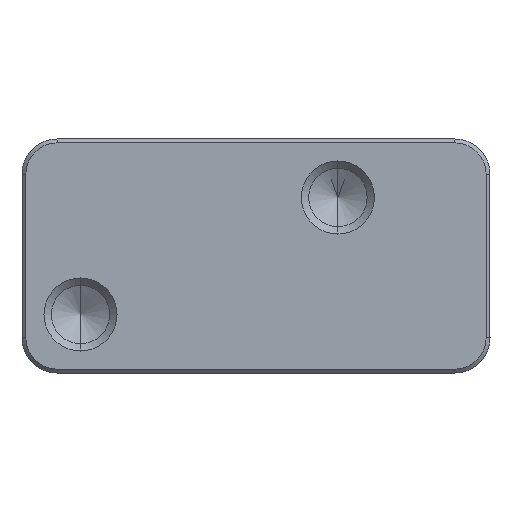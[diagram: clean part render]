
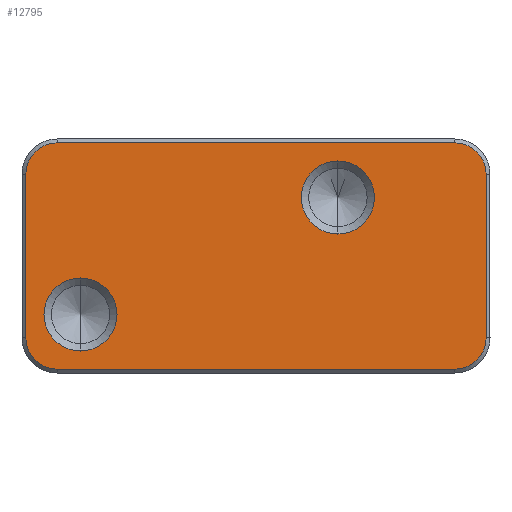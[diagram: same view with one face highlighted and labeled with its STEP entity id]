
A CAD part, front view. The second image highlights one B-rep face of the part: STEP entity #12795.
In plain terms, the highlighted planar face has unit normal (0, -1, 0).
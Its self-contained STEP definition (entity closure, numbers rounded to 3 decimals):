
#258 = CARTESIAN_POINT ( 'NONE',  ( 9.833, 0., 3.498 ) ) ;
#649 = LINE ( 'NONE', #12992, #5948 ) ;
#668 = EDGE_LOOP ( 'NONE', ( #6611, #4352 ) ) ;
#702 = EDGE_LOOP ( 'NONE', ( #12082, #4082 ) ) ;
#799 = CARTESIAN_POINT ( 'NONE',  ( 3.5, 0., 2.497 ) ) ;
#828 = CARTESIAN_POINT ( 'NONE',  ( -9.833, 0., 3.498 ) ) ;
#839 = ORIENTED_EDGE ( 'NONE', *, *, #2306, .F. ) ;
#1074 = AXIS2_PLACEMENT_3D ( 'NONE', #1117, #6933, #3401 ) ;
#1117 = CARTESIAN_POINT ( 'NONE',  ( -10., 0., -5.003 ) ) ;
#1225 = EDGE_CURVE ( 'NONE', #5557, #7521, #12453, .T. ) ;
#1322 = CARTESIAN_POINT ( 'NONE',  ( -8.5, 0., 4.831 ) ) ;
#1327 = FACE_OUTER_BOUND ( 'NONE', #12153, .T. ) ;
#1508 = CARTESIAN_POINT ( 'NONE',  ( 8.5, 0., -3.503 ) ) ;
#1725 = ORIENTED_EDGE ( 'NONE', *, *, #10922, .T. ) ;
#1761 = DIRECTION ( 'NONE',  ( 0., 1., 0. ) ) ;
#1983 = CARTESIAN_POINT ( 'NONE',  ( -9.833, 0., -3.503 ) ) ;
#2174 = DIRECTION ( 'NONE',  ( 0., 0., 1. ) ) ;
#2306 = EDGE_CURVE ( 'NONE', #14112, #10161, #12329, .T. ) ;
#2335 = AXIS2_PLACEMENT_3D ( 'NONE', #1508, #13622, #6010 ) ;
#2463 = AXIS2_PLACEMENT_3D ( 'NONE', #6607, #3275, #8736 ) ;
#2851 = VERTEX_POINT ( 'NONE', #828 ) ;
#2903 = VERTEX_POINT ( 'NONE', #9988 ) ;
#2913 = DIRECTION ( 'NONE',  ( 0., 0., 1. ) ) ;
#2988 = ORIENTED_EDGE ( 'NONE', *, *, #8700, .T. ) ;
#3109 = DIRECTION ( 'NONE',  ( 0., 0., -1. ) ) ;
#3275 = DIRECTION ( 'NONE',  ( 0., -1., 0. ) ) ;
#3342 = ORIENTED_EDGE ( 'NONE', *, *, #12369, .T. ) ;
#3401 = DIRECTION ( 'NONE',  ( 0., 0., -1. ) ) ;
#3446 = VECTOR ( 'NONE', #8576, 1000. ) ;
#3529 = CIRCLE ( 'NONE', #2335, 1.333 ) ;
#3564 = VECTOR ( 'NONE', #4658, 1000. ) ;
#3579 = EDGE_CURVE ( 'NONE', #3937, #2851, #9254, .T. ) ;
#3707 = VECTOR ( 'NONE', #12372, 1000. ) ;
#3886 = CARTESIAN_POINT ( 'NONE',  ( -8.5, 0., 3.498 ) ) ;
#3937 = VERTEX_POINT ( 'NONE', #1322 ) ;
#3987 = DIRECTION ( 'NONE',  ( 0., 0., -1. ) ) ;
#4040 = CARTESIAN_POINT ( 'NONE',  ( 8.5, 0., -4.836 ) ) ;
#4082 = ORIENTED_EDGE ( 'NONE', *, *, #5703, .T. ) ;
#4352 = ORIENTED_EDGE ( 'NONE', *, *, #14501, .T. ) ;
#4435 = FACE_BOUND ( 'NONE', #668, .T. ) ;
#4529 = ORIENTED_EDGE ( 'NONE', *, *, #3579, .T. ) ;
#4557 = EDGE_CURVE ( 'NONE', #9268, #14112, #3529, .T. ) ;
#4613 = DIRECTION ( 'NONE',  ( 0., -1., 0. ) ) ;
#4658 = DIRECTION ( 'NONE',  ( -1., 0., 0. ) ) ;
#5057 = CIRCLE ( 'NONE', #14002, 1.562 ) ;
#5196 = CARTESIAN_POINT ( 'NONE',  ( -9.833, 0., -5.003 ) ) ;
#5321 = AXIS2_PLACEMENT_3D ( 'NONE', #11016, #10786, #3109 ) ;
#5484 = CARTESIAN_POINT ( 'NONE',  ( -7.5, 0., -2.503 ) ) ;
#5518 = LINE ( 'NONE', #9946, #3707 ) ;
#5557 = VERTEX_POINT ( 'NONE', #9329 ) ;
#5703 = EDGE_CURVE ( 'NONE', #12678, #12194, #5750, .T. ) ;
#5750 = CIRCLE ( 'NONE', #10688, 1.562 ) ;
#5948 = VECTOR ( 'NONE', #9742, 1000. ) ;
#6004 = DIRECTION ( 'NONE',  ( 0., 0., -1. ) ) ;
#6010 = DIRECTION ( 'NONE',  ( 0., 0., 1. ) ) ;
#6235 = CARTESIAN_POINT ( 'NONE',  ( 3.5, 0., 2.497 ) ) ;
#6607 = CARTESIAN_POINT ( 'NONE',  ( -8.5, 0., -3.503 ) ) ;
#6611 = ORIENTED_EDGE ( 'NONE', *, *, #1225, .T. ) ;
#6664 = EDGE_CURVE ( 'NONE', #9268, #7176, #649, .T. ) ;
#6933 = DIRECTION ( 'NONE',  ( 0., -1., 0. ) ) ;
#7176 = VERTEX_POINT ( 'NONE', #258 ) ;
#7202 = AXIS2_PLACEMENT_3D ( 'NONE', #14435, #4613, #2174 ) ;
#7500 = AXIS2_PLACEMENT_3D ( 'NONE', #6235, #11760, #6004 ) ;
#7521 = VERTEX_POINT ( 'NONE', #9972 ) ;
#7545 = ORIENTED_EDGE ( 'NONE', *, *, #4557, .F. ) ;
#7833 = PLANE ( 'NONE',  #1074 ) ;
#7971 = CARTESIAN_POINT ( 'NONE',  ( -10., 0., -4.836 ) ) ;
#8146 = CARTESIAN_POINT ( 'NONE',  ( -7.5, 0., -4.065 ) ) ;
#8383 = DIRECTION ( 'NONE',  ( 0., -1., 0. ) ) ;
#8576 = DIRECTION ( 'NONE',  ( 0., 0., -1. ) ) ;
#8700 = EDGE_CURVE ( 'NONE', #2903, #3937, #5518, .T. ) ;
#8736 = DIRECTION ( 'NONE',  ( 0., 0., 1. ) ) ;
#8786 = CARTESIAN_POINT ( 'NONE',  ( -7.5, 0., -0.94 ) ) ;
#9254 = CIRCLE ( 'NONE', #11844, 1.333 ) ;
#9268 = VERTEX_POINT ( 'NONE', #14548 ) ;
#9329 = CARTESIAN_POINT ( 'NONE',  ( 3.5, 0., 0.935 ) ) ;
#9742 = DIRECTION ( 'NONE',  ( 0., 0., 1. ) ) ;
#9830 = EDGE_CURVE ( 'NONE', #7176, #2903, #11708, .T. ) ;
#9946 = CARTESIAN_POINT ( 'NONE',  ( -10., 0., 4.831 ) ) ;
#9972 = CARTESIAN_POINT ( 'NONE',  ( 3.5, 0., 4.06 ) ) ;
#9984 = DIRECTION ( 'NONE',  ( 0., 1., 0. ) ) ;
#9988 = CARTESIAN_POINT ( 'NONE',  ( 8.5, 0., 4.831 ) ) ;
#10161 = VERTEX_POINT ( 'NONE', #14340 ) ;
#10688 = AXIS2_PLACEMENT_3D ( 'NONE', #5484, #9984, #11444 ) ;
#10786 = DIRECTION ( 'NONE',  ( 0., 1., 0. ) ) ;
#10922 = EDGE_CURVE ( 'NONE', #2851, #13872, #11907, .T. ) ;
#10938 = ORIENTED_EDGE ( 'NONE', *, *, #6664, .T. ) ;
#11016 = CARTESIAN_POINT ( 'NONE',  ( -7.5, 0., -2.503 ) ) ;
#11200 = CIRCLE ( 'NONE', #2463, 1.333 ) ;
#11444 = DIRECTION ( 'NONE',  ( 0., 0., -1. ) ) ;
#11708 = CIRCLE ( 'NONE', #7202, 1.333 ) ;
#11760 = DIRECTION ( 'NONE',  ( 0., 1., 0. ) ) ;
#11844 = AXIS2_PLACEMENT_3D ( 'NONE', #3886, #8383, #2913 ) ;
#11907 = LINE ( 'NONE', #5196, #3446 ) ;
#12082 = ORIENTED_EDGE ( 'NONE', *, *, #13546, .T. ) ;
#12153 = EDGE_LOOP ( 'NONE', ( #1725, #3342, #839, #7545, #10938, #12993, #2988, #4529 ) ) ;
#12194 = VERTEX_POINT ( 'NONE', #8146 ) ;
#12329 = LINE ( 'NONE', #7971, #3564 ) ;
#12369 = EDGE_CURVE ( 'NONE', #13872, #10161, #11200, .T. ) ;
#12372 = DIRECTION ( 'NONE',  ( -1., 0., 0. ) ) ;
#12453 = CIRCLE ( 'NONE', #7500, 1.562 ) ;
#12678 = VERTEX_POINT ( 'NONE', #8786 ) ;
#12795 = ADVANCED_FACE ( 'NONE', ( #1327, #13658, #4435 ), #7833, .T. ) ;
#12992 = CARTESIAN_POINT ( 'NONE',  ( 9.833, 0., -5.003 ) ) ;
#12993 = ORIENTED_EDGE ( 'NONE', *, *, #9830, .T. ) ;
#13546 = EDGE_CURVE ( 'NONE', #12194, #12678, #13792, .T. ) ;
#13622 = DIRECTION ( 'NONE',  ( 0., 1., 0. ) ) ;
#13658 = FACE_BOUND ( 'NONE', #702, .T. ) ;
#13792 = CIRCLE ( 'NONE', #5321, 1.562 ) ;
#13872 = VERTEX_POINT ( 'NONE', #1983 ) ;
#14002 = AXIS2_PLACEMENT_3D ( 'NONE', #799, #1761, #3987 ) ;
#14112 = VERTEX_POINT ( 'NONE', #4040 ) ;
#14340 = CARTESIAN_POINT ( 'NONE',  ( -8.5, 0., -4.836 ) ) ;
#14435 = CARTESIAN_POINT ( 'NONE',  ( 8.5, 0., 3.498 ) ) ;
#14501 = EDGE_CURVE ( 'NONE', #7521, #5557, #5057, .T. ) ;
#14548 = CARTESIAN_POINT ( 'NONE',  ( 9.833, 0., -3.503 ) ) ;
